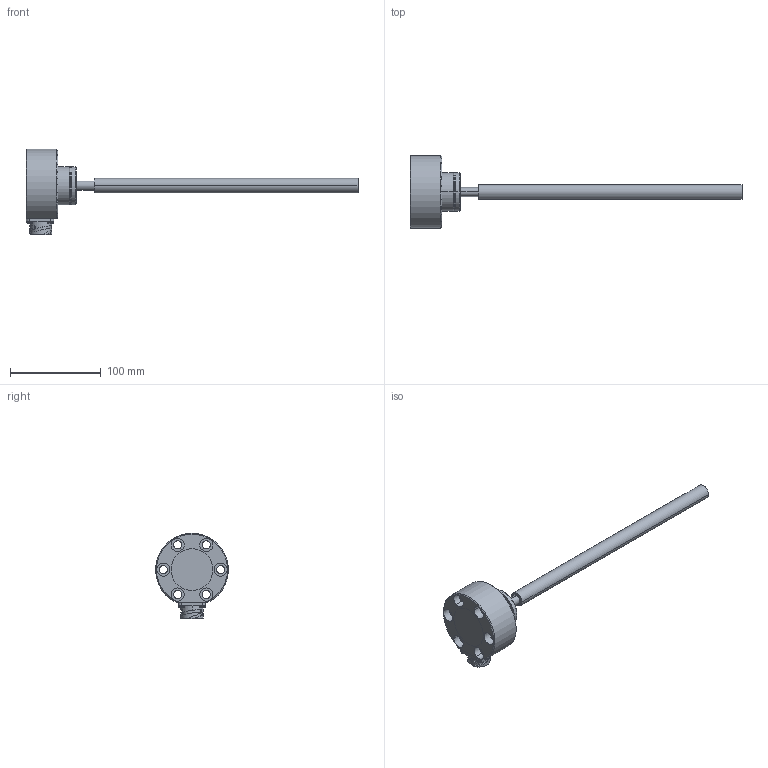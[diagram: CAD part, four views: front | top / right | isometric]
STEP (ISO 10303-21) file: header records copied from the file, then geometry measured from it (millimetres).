
FILE_DESCRIPTION((''),'2;1');
FILE_NAME('0000291085_ASM','2020-03-19T08:01:16',('11000757'),(''),'CREO PARAMETRIC BY PTC INC, 2019030','CREO PARAMETRIC BY PTC INC, 2019030','');
FILE_SCHEMA(('AUTOMOTIVE_DESIGN { 1 0 10303 214 1 1 1 1 }'));
Length unit declared in the file: millimetre
Products named in the file (4): 0000291066; 0000291067; 0000291068; 0000291085_ASM
Assembly tree (3 placements, depth 2):
  0000291085_ASM
    0000291066
    0000291067
    0000291068
Bounding box: 365 x 79.76 x 93.55 mm (x, y, z)
Volume: 20257.6 mm3; surface area: 66983.3 mm2
Topology: 2 solids, 3 shells, 254 faces, 595 edges, 379 vertices
Faces by surface type: cylinder 105, plane 80, cone 39, bspline 16, torus 12, sphere 2
Entity records: 15607 total; most frequent: CARTESIAN_POINT 4614, DIRECTION 1321, ORIENTED_EDGE 1166, PRESENTATION_STYLE_ASSIGNMENT 633, STYLED_ITEM 612, CURVE_STYLE 609, EDGE_CURVE 593, AXIS2_PLACEMENT_3D 547
